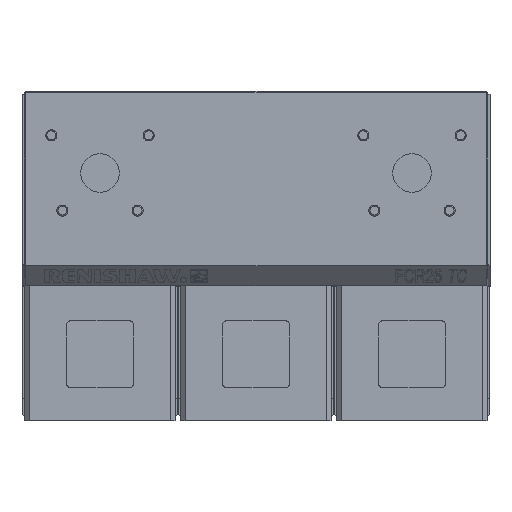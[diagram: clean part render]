
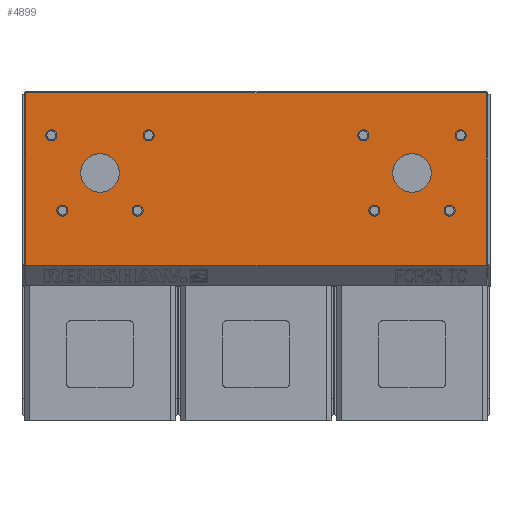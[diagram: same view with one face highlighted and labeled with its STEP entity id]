
A CAD part, top view. The second image highlights one B-rep face of the part: STEP entity #4899.
In plain terms, the highlighted planar face has unit normal (0, 0, 1).
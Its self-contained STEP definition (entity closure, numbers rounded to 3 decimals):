
#2480=FACE_BOUND('',#6180,.T.);
#2481=FACE_BOUND('',#6181,.T.);
#2482=FACE_BOUND('',#6182,.T.);
#2483=FACE_BOUND('',#6183,.T.);
#2484=FACE_BOUND('',#6184,.T.);
#2485=FACE_BOUND('',#6185,.T.);
#2486=FACE_BOUND('',#6186,.T.);
#2487=FACE_BOUND('',#6187,.T.);
#2488=FACE_BOUND('',#6188,.T.);
#2489=FACE_BOUND('',#6189,.T.);
#2490=FACE_BOUND('',#6190,.T.);
#3178=LINE('',#16582,#4204);
#3180=LINE('',#16586,#4206);
#3182=LINE('',#16590,#4208);
#3183=LINE('',#16592,#4209);
#4204=VECTOR('',#13330,1.);
#4206=VECTOR('',#13334,1.);
#4208=VECTOR('',#13338,1.);
#4209=VECTOR('',#13341,1.);
#4899=ADVANCED_FACE('',(#2480,#2481,#2482,#2483,#2484,#2485,#2486,#2487,
#2488,#2489,#2490),#5272,.T.);
#5272=PLANE('',#11664);
#6180=EDGE_LOOP('',(#8039));
#6181=EDGE_LOOP('',(#8040));
#6182=EDGE_LOOP('',(#8041));
#6183=EDGE_LOOP('',(#8042));
#6184=EDGE_LOOP('',(#8043));
#6185=EDGE_LOOP('',(#8044));
#6186=EDGE_LOOP('',(#8045));
#6187=EDGE_LOOP('',(#8046,#8047,#8048,#8049));
#6188=EDGE_LOOP('',(#8050));
#6189=EDGE_LOOP('',(#8051));
#6190=EDGE_LOOP('',(#8052));
#8039=ORIENTED_EDGE('',*,*,#10640,.F.);
#8040=ORIENTED_EDGE('',*,*,#10641,.F.);
#8041=ORIENTED_EDGE('',*,*,#10642,.F.);
#8042=ORIENTED_EDGE('',*,*,#10643,.F.);
#8043=ORIENTED_EDGE('',*,*,#10644,.F.);
#8044=ORIENTED_EDGE('',*,*,#10645,.F.);
#8045=ORIENTED_EDGE('',*,*,#10646,.F.);
#8046=ORIENTED_EDGE('',*,*,#10647,.T.);
#8047=ORIENTED_EDGE('',*,*,#10649,.T.);
#8048=ORIENTED_EDGE('',*,*,#10651,.T.);
#8049=ORIENTED_EDGE('',*,*,#10652,.T.);
#8050=ORIENTED_EDGE('',*,*,#10653,.F.);
#8051=ORIENTED_EDGE('',*,*,#10654,.F.);
#8052=ORIENTED_EDGE('',*,*,#10655,.T.);
#9500=VERTEX_POINT('',#16537);
#9504=VERTEX_POINT('',#16555);
#9506=VERTEX_POINT('',#16562);
#9507=VERTEX_POINT('',#16565);
#9508=VERTEX_POINT('',#16568);
#9509=VERTEX_POINT('',#16571);
#9510=VERTEX_POINT('',#16574);
#9511=VERTEX_POINT('',#16577);
#9512=VERTEX_POINT('',#16580);
#9513=VERTEX_POINT('',#16585);
#9514=VERTEX_POINT('',#16589);
#9515=VERTEX_POINT('',#16595);
#9516=VERTEX_POINT('',#16598);
#9517=VERTEX_POINT('',#16601);
#10640=EDGE_CURVE('',#9506,#9506,#11188,.T.);
#10641=EDGE_CURVE('',#9507,#9507,#11189,.T.);
#10642=EDGE_CURVE('',#9508,#9508,#11190,.T.);
#10643=EDGE_CURVE('',#9509,#9509,#11191,.T.);
#10644=EDGE_CURVE('',#9510,#9510,#11192,.T.);
#10645=EDGE_CURVE('',#9511,#9511,#11193,.T.);
#10646=EDGE_CURVE('',#9512,#9512,#11194,.T.);
#10647=EDGE_CURVE('',#9504,#9500,#3178,.T.);
#10649=EDGE_CURVE('',#9500,#9513,#3180,.T.);
#10651=EDGE_CURVE('',#9513,#9514,#3182,.T.);
#10652=EDGE_CURVE('',#9514,#9504,#3183,.T.);
#10653=EDGE_CURVE('',#9515,#9515,#11195,.T.);
#10654=EDGE_CURVE('',#9516,#9516,#11196,.T.);
#10655=EDGE_CURVE('',#9517,#9517,#11197,.T.);
#11188=CIRCLE('',#11640,1.25);
#11189=CIRCLE('',#11642,1.25);
#11190=CIRCLE('',#11644,1.25);
#11191=CIRCLE('',#11646,1.25);
#11192=CIRCLE('',#11648,1.25);
#11193=CIRCLE('',#11650,1.25);
#11194=CIRCLE('',#11652,1.25);
#11195=CIRCLE('',#11658,4.35);
#11196=CIRCLE('',#11660,4.35);
#11197=CIRCLE('',#11662,1.25);
#11640=AXIS2_PLACEMENT_3D('',#16561,#13302,#13303);
#11642=AXIS2_PLACEMENT_3D('',#16564,#13306,#13307);
#11644=AXIS2_PLACEMENT_3D('',#16567,#13310,#13311);
#11646=AXIS2_PLACEMENT_3D('',#16570,#13314,#13315);
#11648=AXIS2_PLACEMENT_3D('',#16573,#13318,#13319);
#11650=AXIS2_PLACEMENT_3D('',#16576,#13322,#13323);
#11652=AXIS2_PLACEMENT_3D('',#16579,#13326,#13327);
#11658=AXIS2_PLACEMENT_3D('',#16594,#13344,#13345);
#11660=AXIS2_PLACEMENT_3D('',#16597,#13348,#13349);
#11662=AXIS2_PLACEMENT_3D('',#16600,#13352,#13353);
#11664=AXIS2_PLACEMENT_3D('',#16603,#13356,#13357);
#13302=DIRECTION('',(0.,0.,1.));
#13303=DIRECTION('',(0.,-1.,0.));
#13306=DIRECTION('',(0.,0.,1.));
#13307=DIRECTION('',(0.,-1.,0.));
#13310=DIRECTION('',(0.,0.,1.));
#13311=DIRECTION('',(0.,-1.,0.));
#13314=DIRECTION('',(0.,0.,1.));
#13315=DIRECTION('',(0.,-1.,0.));
#13318=DIRECTION('',(0.,0.,1.));
#13319=DIRECTION('',(0.,-1.,0.));
#13322=DIRECTION('',(0.,0.,1.));
#13323=DIRECTION('',(0.,-1.,0.));
#13326=DIRECTION('',(0.,0.,1.));
#13327=DIRECTION('',(0.,-1.,0.));
#13330=DIRECTION('',(1.,0.,0.));
#13334=DIRECTION('',(0.,1.,0.));
#13338=DIRECTION('',(-1.,0.,0.));
#13341=DIRECTION('',(0.,-1.,0.));
#13344=DIRECTION('',(0.,0.,1.));
#13345=DIRECTION('',(0.,-1.,0.));
#13348=DIRECTION('',(0.,0.,1.));
#13349=DIRECTION('',(0.,-1.,0.));
#13352=DIRECTION('',(0.,0.,-1.));
#13353=DIRECTION('',(0.,-1.,0.));
#13356=DIRECTION('',(0.,0.,1.));
#13357=DIRECTION('',(0.,-1.,0.));
#16537=CARTESIAN_POINT('',(87.225,21.75,18.21));
#16555=CARTESIAN_POINT('',(-16.725,21.75,18.21));
#16561=CARTESIAN_POINT('',(-8.5,34.25,18.21));
#16562=CARTESIAN_POINT('',(-8.5,33.,18.21));
#16564=CARTESIAN_POINT('',(-11.,51.25,18.21));
#16565=CARTESIAN_POINT('',(-11.,50.,18.21));
#16567=CARTESIAN_POINT('',(11.,51.25,18.21));
#16568=CARTESIAN_POINT('',(11.,50.,18.21));
#16570=CARTESIAN_POINT('',(8.5,34.25,18.21));
#16571=CARTESIAN_POINT('',(8.5,33.,18.21));
#16573=CARTESIAN_POINT('',(62.,34.25,18.21));
#16574=CARTESIAN_POINT('',(62.,33.,18.21));
#16576=CARTESIAN_POINT('',(79.,34.25,18.21));
#16577=CARTESIAN_POINT('',(79.,33.,18.21));
#16579=CARTESIAN_POINT('',(59.5,51.25,18.21));
#16580=CARTESIAN_POINT('',(59.5,50.,18.21));
#16582=CARTESIAN_POINT('',(35.25,21.75,18.21));
#16585=CARTESIAN_POINT('',(87.225,60.85,18.21));
#16586=CARTESIAN_POINT('',(87.225,60.85,18.21));
#16589=CARTESIAN_POINT('',(-16.725,60.85,18.21));
#16590=CARTESIAN_POINT('',(35.25,60.85,18.21));
#16592=CARTESIAN_POINT('',(-16.725,21.75,18.21));
#16594=CARTESIAN_POINT('',(0.,42.75,18.21));
#16595=CARTESIAN_POINT('',(0.,38.4,18.21));
#16597=CARTESIAN_POINT('',(70.5,42.75,18.21));
#16598=CARTESIAN_POINT('',(70.5,38.4,18.21));
#16600=CARTESIAN_POINT('',(81.5,51.25,18.21));
#16601=CARTESIAN_POINT('',(81.5,50.,18.21));
#16603=CARTESIAN_POINT('',(35.25,39.25,18.21));
